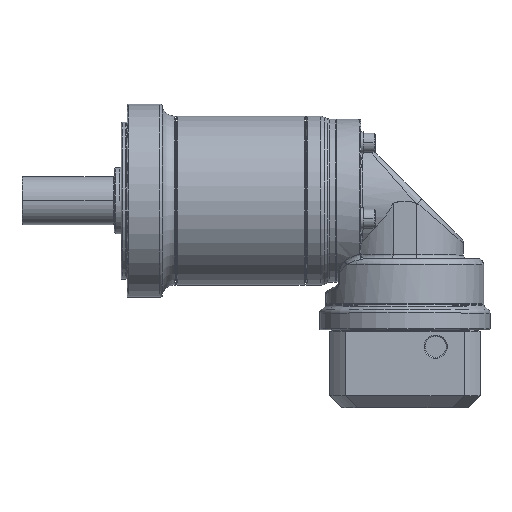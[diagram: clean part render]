
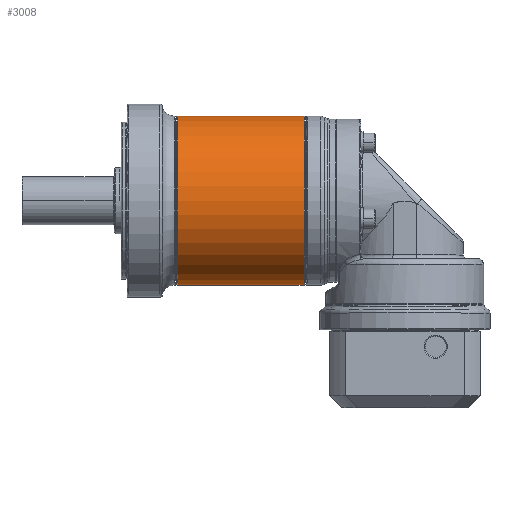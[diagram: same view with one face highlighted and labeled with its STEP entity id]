
A CAD part, top view. The second image highlights one B-rep face of the part: STEP entity #3008.
In plain terms, the highlighted cylindrical face has radius 70 mm (diameter 140 mm), a partial arc.
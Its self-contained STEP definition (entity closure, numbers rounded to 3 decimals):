
#2490=CARTESIAN_POINT('',(105.5,0.,0.));
#2491=DIRECTION('',(-1.,0.,0.));
#2492=DIRECTION('',(0.,-1.,0.));
#2493=AXIS2_PLACEMENT_3D('',#2490,#2491,#2492);
#2495=DIRECTION('',(-1.,0.,0.));
#2496=VECTOR('',#2495,104.5);
#2497=CARTESIAN_POINT('',(105.5,-70.,0.));
#2498=LINE('',#2497,#2496);
#2499=CARTESIAN_POINT('',(1.,0.,0.));
#2500=DIRECTION('',(-1.,0.,0.));
#2501=DIRECTION('',(0.,-1.,0.));
#2502=AXIS2_PLACEMENT_3D('',#2499,#2500,#2501);
#2504=DIRECTION('',(-1.,0.,0.));
#2505=VECTOR('',#2504,104.5);
#2506=CARTESIAN_POINT('',(105.5,70.,0.));
#2507=LINE('',#2506,#2505);
#2859=CARTESIAN_POINT('',(1.,70.,0.));
#2860=CARTESIAN_POINT('',(1.,-70.,0.));
#2861=VERTEX_POINT('',#2859);
#2862=VERTEX_POINT('',#2860);
#2907=CARTESIAN_POINT('',(105.5,70.,0.));
#2908=CARTESIAN_POINT('',(105.5,-70.,0.));
#2909=VERTEX_POINT('',#2907);
#2910=VERTEX_POINT('',#2908);
#2995=CARTESIAN_POINT('',(111.825,0.,0.));
#2996=DIRECTION('',(-1.,0.,0.));
#2997=DIRECTION('',(0.,1.,0.));
#2998=AXIS2_PLACEMENT_3D('',#2995,#2996,#2997);
#2999=CYLINDRICAL_SURFACE('',#2998,70.);
#3001=ORIENTED_EDGE('',*,*,#3000,.F.);
#3002=ORIENTED_EDGE('',*,*,#2990,.T.);
#3004=ORIENTED_EDGE('',*,*,#3003,.T.);
#3005=ORIENTED_EDGE('',*,*,#2986,.F.);
#3006=EDGE_LOOP('',(#3001,#3002,#3004,#3005));
#3007=FACE_OUTER_BOUND('',#3006,.F.);
#3008=ADVANCED_FACE('',(#3007),#2999,.T.);
#2494=CIRCLE('',#2493,70.);
#2503=CIRCLE('',#2502,70.);
#2986=EDGE_CURVE('',#2909,#2861,#2507,.T.);
#2990=EDGE_CURVE('',#2910,#2862,#2498,.T.);
#3000=EDGE_CURVE('',#2910,#2909,#2494,.T.);
#3003=EDGE_CURVE('',#2862,#2861,#2503,.T.);
